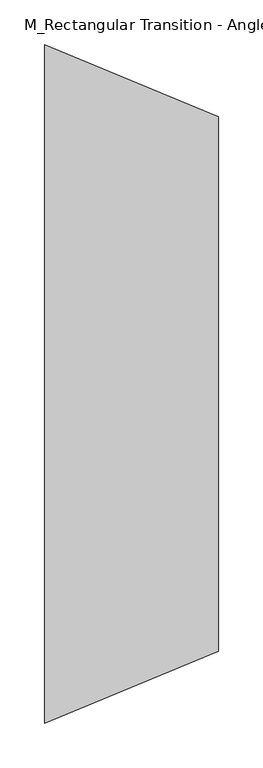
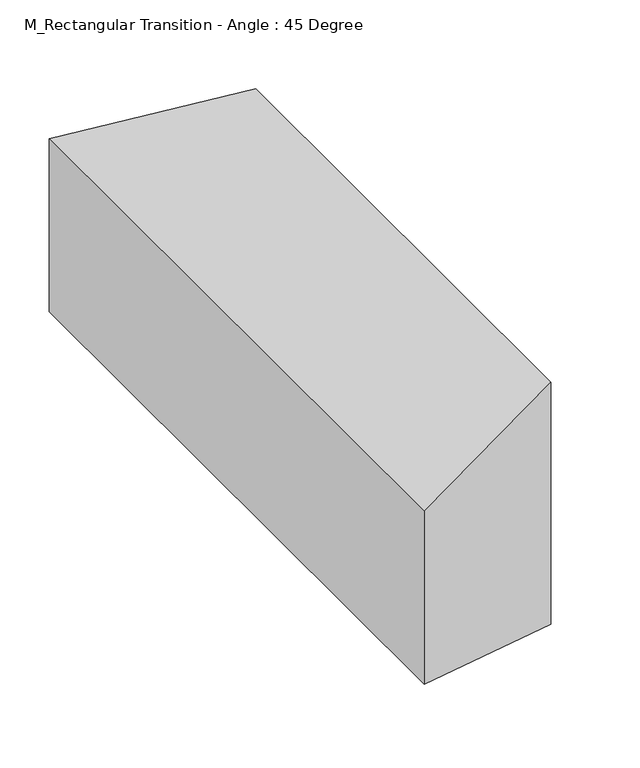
"""IFC4 building model written with IfcOpenShell, lengths in millimetres: duct fitting geometry, M_Rectangular Transition - Angle : 45 Degree."""

from ifc_helpers import new_model, si_unit, origin, place, context, project, spatial, faceted_brep, source, transform, mapped, element, save


def m_rectangular_transition_angle_45_degree_023bf680(model_context):
    return source(origin(), model_context, "Body", "Brep", [
        faceted_brep([(195.4004102, -300.0, 150.0), (195.4004102, -300.0, -150.0), (195.4004102, 300.0, -150.0), (195.4004102, 300.0, 150.0), (0.0, -380.9375, 107.15), (0.0, 380.9375, 107.15), (0.0, 380.9375, -107.15), (0.0, -380.9375, -107.15)], [[[0, 1, 2, 3]], [[4, 5, 6, 7]], [[4, 7, 1, 0]], [[7, 6, 2, 1]], [[6, 5, 3, 2]], [[5, 4, 0, 3]]]),
    ])


if __name__ == "__main__":
    model = new_model("IFC4")
    model_context = context("Model", 3, world=origin())
    ifc_project = project(units=[si_unit("LENGTHUNIT", "METRE", prefix="MILLI")], contexts=[model_context])
    site = spatial("IfcSite", under=ifc_project)
    building = spatial("IfcBuilding", under=site)
    placement = place(None, origin())
    m_rectangular_transition_angle_45_degree_shape = m_rectangular_transition_angle_45_degree_023bf680(model_context)
    element("IfcDuctFitting", 1, ObjectType="M_Rectangular Transition - Angle : 45 Degree", at=placement, inside=building, context=model_context, shape_type="MappedRepresentation", body=[
        mapped(m_rectangular_transition_angle_45_degree_shape, transform((0.0, 0.0, 0.0), x_axis=(1.0, 0.0, 0.0), y_axis=(0.0, 1.0, 0.0), z_axis=(0.0, 0.0, 1.0))),
    ])
    save(model, "model.ifc")
